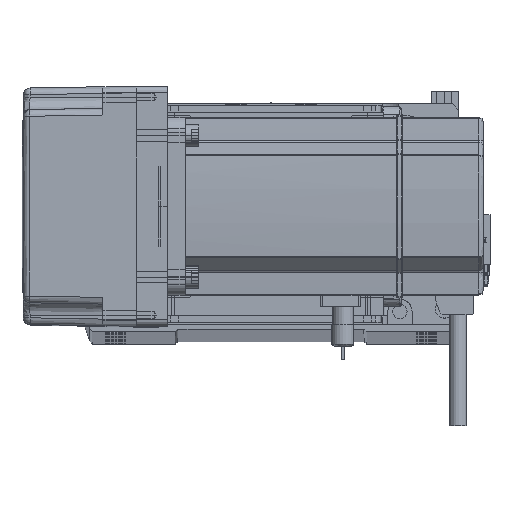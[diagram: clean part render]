
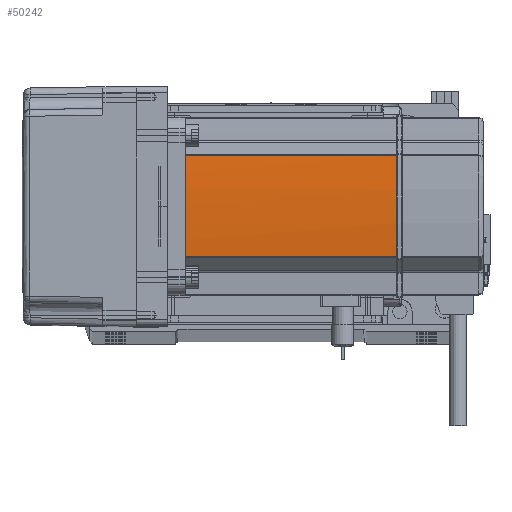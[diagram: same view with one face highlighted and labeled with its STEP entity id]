
A CAD part, top view. The second image highlights one B-rep face of the part: STEP entity #50242.
In plain terms, the highlighted cylindrical face has radius 270 mm (diameter 540 mm), a partial arc.
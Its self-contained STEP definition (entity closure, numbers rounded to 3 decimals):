
#456 = CARTESIAN_POINT ( 'NONE',  ( 40., 0.127, 134. ) ) ;
#1010 = EDGE_CURVE ( 'NONE', #50379, #1718, #63885, .T. ) ;
#1042 = DIRECTION ( 'NONE',  ( 0., 0., -1. ) ) ;
#1360 = CARTESIAN_POINT ( 'NONE',  ( 40., 0.042, 134. ) ) ;
#1718 = VERTEX_POINT ( 'NONE', #61912 ) ;
#2006 = AXIS2_PLACEMENT_3D ( 'NONE', #49808, #28345, #18028 ) ;
#2906 = ORIENTED_EDGE ( 'NONE', *, *, #50258, .T. ) ;
#4604 = B_SPLINE_CURVE_WITH_KNOTS ( 'NONE', 3,
 ( #52692, #32201, #1360, #456 ),
 .UNSPECIFIED., .F., .F.,
 ( 4, 4 ),
 ( 0., 1. ),
 .UNSPECIFIED. ) ;
#4621 = CYLINDRICAL_SURFACE ( 'NONE', #2006, 270. ) ;
#7788 = CARTESIAN_POINT ( 'NONE',  ( -230., 0., 134. ) ) ;
#7841 = ORIENTED_EDGE ( 'NONE', *, *, #1010, .T. ) ;
#8282 = CIRCLE ( 'NONE', #46971, 270. ) ;
#14156 = CARTESIAN_POINT ( 'NONE',  ( 39.042, 22.724, 134. ) ) ;
#18028 = DIRECTION ( 'NONE',  ( -1., 0., 0. ) ) ;
#18900 = VERTEX_POINT ( 'NONE', #41882 ) ;
#20876 = CARTESIAN_POINT ( 'NONE',  ( 39.042, 22.724, 39. ) ) ;
#26192 = EDGE_CURVE ( 'NONE', #18900, #60762, #8282, .T. ) ;
#26226 = CARTESIAN_POINT ( 'NONE',  ( -230., 0., 39. ) ) ;
#26459 = DIRECTION ( 'NONE',  ( -1., 0., 0. ) ) ;
#26614 = VERTEX_POINT ( 'NONE', #48239 ) ;
#28345 = DIRECTION ( 'NONE',  ( 0., 0., -1. ) ) ;
#29868 = CIRCLE ( 'NONE', #58805, 270. ) ;
#30378 = LINE ( 'NONE', #64100, #49761 ) ;
#32201 = CARTESIAN_POINT ( 'NONE',  ( 40., -0.042, 134. ) ) ;
#33853 = DIRECTION ( 'NONE',  ( -1., 0., 0. ) ) ;
#35859 = AXIS2_PLACEMENT_3D ( 'NONE', #7788, #38924, #63780 ) ;
#38924 = DIRECTION ( 'NONE',  ( 0., 0., -1. ) ) ;
#40220 = EDGE_CURVE ( 'NONE', #18900, #1718, #4604, .T. ) ;
#41115 = ORIENTED_EDGE ( 'NONE', *, *, #58927, .T. ) ;
#41882 = CARTESIAN_POINT ( 'NONE',  ( 40., -0.127, 134. ) ) ;
#43386 = CARTESIAN_POINT ( 'NONE',  ( 39.042, -22.724, 134. ) ) ;
#44027 = CARTESIAN_POINT ( 'NONE',  ( -230., 0., 134. ) ) ;
#46971 = AXIS2_PLACEMENT_3D ( 'NONE', #44027, #49869, #33853 ) ;
#47473 = VECTOR ( 'NONE', #48397, 1000. ) ;
#48239 = CARTESIAN_POINT ( 'NONE',  ( 39.042, -22.724, 39. ) ) ;
#48397 = DIRECTION ( 'NONE',  ( 0., 0., -1. ) ) ;
#49761 = VECTOR ( 'NONE', #66103, 1000. ) ;
#49808 = CARTESIAN_POINT ( 'NONE',  ( -230., 0., 58. ) ) ;
#49869 = DIRECTION ( 'NONE',  ( 0., 0., -1. ) ) ;
#50065 = ORIENTED_EDGE ( 'NONE', *, *, #66047, .F. ) ;
#50242 = ADVANCED_FACE ( 'NONE', ( #57785 ), #4621, .T. ) ;
#50258 = EDGE_CURVE ( 'NONE', #60218, #50379, #30378, .T. ) ;
#50379 = VERTEX_POINT ( 'NONE', #14156 ) ;
#51288 = ORIENTED_EDGE ( 'NONE', *, *, #40220, .F. ) ;
#52692 = CARTESIAN_POINT ( 'NONE',  ( 40., -0.127, 134. ) ) ;
#53050 = EDGE_LOOP ( 'NONE', ( #41115, #50065, #2906, #7841, #51288, #63221 ) ) ;
#57785 = FACE_OUTER_BOUND ( 'NONE', #53050, .T. ) ;
#58805 = AXIS2_PLACEMENT_3D ( 'NONE', #26226, #1042, #26459 ) ;
#58917 = CARTESIAN_POINT ( 'NONE',  ( 39.042, -22.724, 58. ) ) ;
#58927 = EDGE_CURVE ( 'NONE', #60762, #26614, #60333, .T. ) ;
#60218 = VERTEX_POINT ( 'NONE', #20876 ) ;
#60333 = LINE ( 'NONE', #58917, #47473 ) ;
#60762 = VERTEX_POINT ( 'NONE', #43386 ) ;
#61912 = CARTESIAN_POINT ( 'NONE',  ( 40., 0.127, 134. ) ) ;
#63221 = ORIENTED_EDGE ( 'NONE', *, *, #26192, .T. ) ;
#63780 = DIRECTION ( 'NONE',  ( -1., 0., 0. ) ) ;
#63885 = CIRCLE ( 'NONE', #35859, 270. ) ;
#64100 = CARTESIAN_POINT ( 'NONE',  ( 39.042, 22.724, 58. ) ) ;
#66047 = EDGE_CURVE ( 'NONE', #60218, #26614, #29868, .T. ) ;
#66103 = DIRECTION ( 'NONE',  ( 0., 0., 1. ) ) ;
